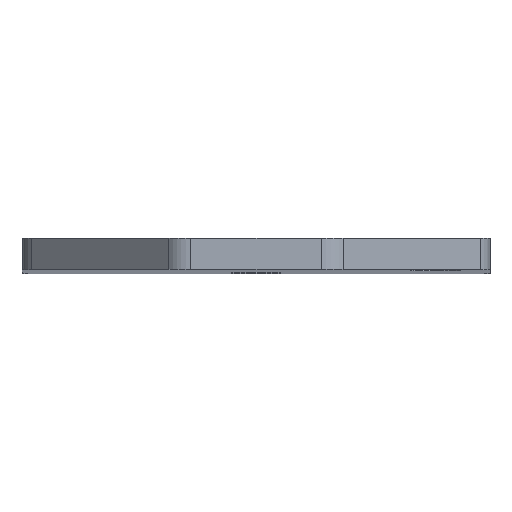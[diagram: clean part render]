
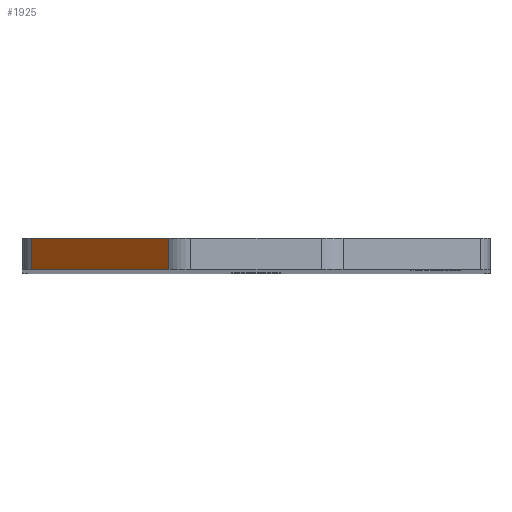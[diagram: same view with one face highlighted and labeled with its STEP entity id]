
A CAD part, top view. The second image highlights one B-rep face of the part: STEP entity #1925.
In plain terms, the highlighted planar face has unit normal (-0.707, 0, 0.707).
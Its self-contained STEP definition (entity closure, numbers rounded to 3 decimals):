
#34 = PLANE ( 'NONE',  #1962 ) ;
#69 = VERTEX_POINT ( 'NONE', #1248 ) ;
#86 = LINE ( 'NONE', #605, #1747 ) ;
#151 = VERTEX_POINT ( 'NONE', #499 ) ;
#281 = DIRECTION ( 'NONE',  ( 0., -1., 0. ) ) ;
#440 = CARTESIAN_POINT ( 'NONE',  ( -5.586, 2., 79.414 ) ) ;
#464 = EDGE_CURVE ( 'NONE', #1847, #69, #86, .T. ) ;
#497 = EDGE_CURVE ( 'NONE', #954, #69, #1718, .T. ) ;
#499 = CARTESIAN_POINT ( 'NONE',  ( -5.586, 2., 79.414 ) ) ;
#556 = CARTESIAN_POINT ( 'NONE',  ( -5., 2., 80. ) ) ;
#557 = VECTOR ( 'NONE', #1095, 1000. ) ;
#605 = CARTESIAN_POINT ( 'NONE',  ( -14.414, 0., 70.586 ) ) ;
#610 = ORIENTED_EDGE ( 'NONE', *, *, #1185, .F. ) ;
#691 = VECTOR ( 'NONE', #1387, 1000. ) ;
#710 = ORIENTED_EDGE ( 'NONE', *, *, #464, .T. ) ;
#727 = VECTOR ( 'NONE', #1206, 1000. ) ;
#855 = DIRECTION ( 'NONE',  ( 0., -1., 0. ) ) ;
#931 = CARTESIAN_POINT ( 'NONE',  ( -42.5, 0., 42.5 ) ) ;
#954 = VERTEX_POINT ( 'NONE', #2047 ) ;
#987 = ORIENTED_EDGE ( 'NONE', *, *, #497, .F. ) ;
#1010 = CARTESIAN_POINT ( 'NONE',  ( -5., 2., 80. ) ) ;
#1043 = ORIENTED_EDGE ( 'NONE', *, *, #1350, .T. ) ;
#1095 = DIRECTION ( 'NONE',  ( 0., 1., 0. ) ) ;
#1185 = EDGE_CURVE ( 'NONE', #1847, #151, #2024, .T. ) ;
#1206 = DIRECTION ( 'NONE',  ( 0.707, 0., 0.707 ) ) ;
#1248 = CARTESIAN_POINT ( 'NONE',  ( -14.414, 0., 70.586 ) ) ;
#1259 = LINE ( 'NONE', #440, #557 ) ;
#1350 = EDGE_CURVE ( 'NONE', #954, #151, #1259, .T. ) ;
#1387 = DIRECTION ( 'NONE',  ( -0.707, 0., -0.707 ) ) ;
#1560 = EDGE_LOOP ( 'NONE', ( #610, #710, #987, #1043 ) ) ;
#1718 = LINE ( 'NONE', #931, #691 ) ;
#1747 = VECTOR ( 'NONE', #281, 1000. ) ;
#1814 = FACE_OUTER_BOUND ( 'NONE', #1560, .T. ) ;
#1847 = VERTEX_POINT ( 'NONE', #1921 ) ;
#1858 = DIRECTION ( 'NONE',  ( 0.707, 0., -0.707 ) ) ;
#1921 = CARTESIAN_POINT ( 'NONE',  ( -14.414, 2., 70.586 ) ) ;
#1925 = ADVANCED_FACE ( 'NONE', ( #1814 ), #34, .F. ) ;
#1962 = AXIS2_PLACEMENT_3D ( 'NONE', #1010, #1858, #855 ) ;
#2024 = LINE ( 'NONE', #556, #727 ) ;
#2047 = CARTESIAN_POINT ( 'NONE',  ( -5.586, 0., 79.414 ) ) ;
